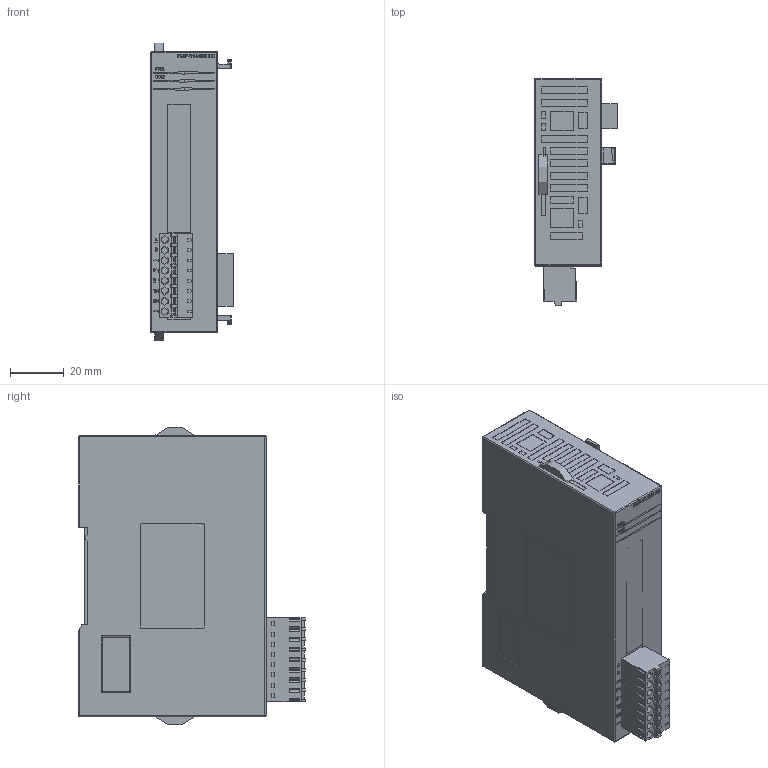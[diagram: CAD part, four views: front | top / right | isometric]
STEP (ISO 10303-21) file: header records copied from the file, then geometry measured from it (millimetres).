
FILE_DESCRIPTION(('STEP AP242'), '1');
FILE_NAME('PMP-01-NES-ED', '2025-08-18T12:07:06', ('PROMPOWER'), (''), 'C3D Converter', 'C3D Toolkit', '');
FILE_SCHEMA(('AP242_MANAGED_MODEL_BASED_3D_ENGINEERING_MIM_LF { 1 0 10303 442 1 1 4 }'));
Length unit declared in the file: millimetre
Products named in the file (1): PMP-01-NES-ED
Bounding box: 30.8 x 84.71 x 110.91 mm (x, y, z)
Surface area: 29142.7 mm2
Topology: 13 solids, 30 shells, 1214 faces, 3276 edges, 2186 vertices
Faces by surface type: plane 911, bspline 120, extrusion 97, cylinder 86
Full cylindrical faces by diameter (mm): 3 x8
Entity records: 66610 total; most frequent: CARTESIAN_POINT 27565, ORIENTED_EDGE 6430, DIRECTION 4932, EDGE_CURVE 3267, VECTOR 2510, LINE 2413, VERTEX_POINT 2186, EDGE_LOOP 1357
